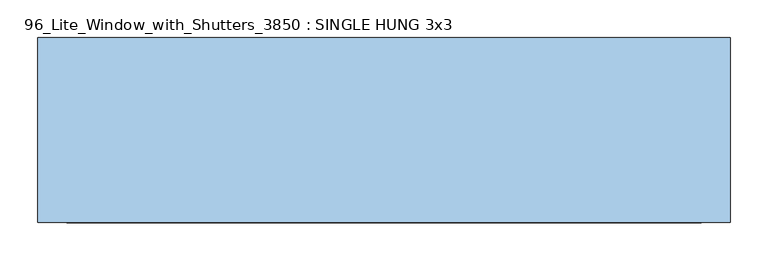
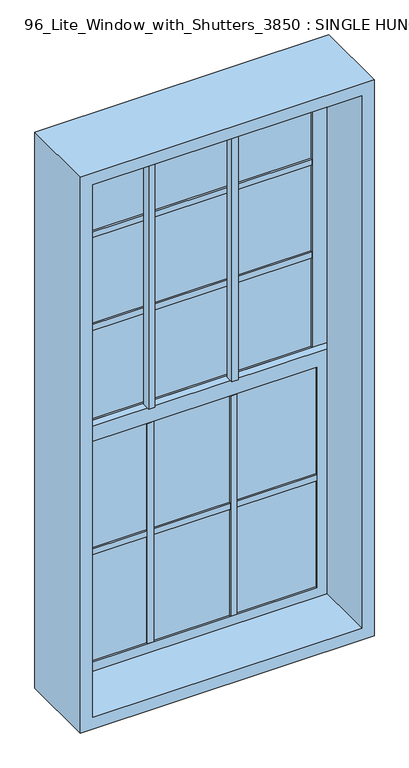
"""IFC4 building model written with IfcOpenShell, lengths in millimetres: window geometry, 96_Lite_Window_with_Shutters_3850 : SINGLE HUNG 3x3."""

from ifc_helpers import new_model, si_unit, frame, origin, place, context, project, spatial, polyline, outline, extrude, faceted_brep, source, transform, mapped, element, save


def window_96_lite_window_with_shutters_3850_single_hung_3x3_51791338(model_context):
    return source(origin(), model_context, "Body", "SolidModel", [
        extrude(outline(polyline([(-387.35, 109.5375), (387.35, 109.5375), (387.35, 96.8375), (-387.35, 96.8375), (-387.35, 109.5375)])), frame((0.0, 0.0, 1149.35), z_axis=(0.0, 0.0, 1.0), x_axis=(1.0, 0.0, 0.0)), (0.0, 0.0, 1.0), 914.4),
        extrude(outline(polyline([(-120.517764, 84.1375), (-120.517764, 58.7375), (-139.832236, 58.7375), (-139.832236, 84.1375), (-120.517764, 84.1375)])), frame((0.0, 0.0, 1149.35), z_axis=(0.0, 0.0, 1.0), x_axis=(1.0, 0.0, 0.0)), (0.0, 0.0, 1.0), 914.4),
        extrude(outline(polyline([(138.244736, 84.1375), (138.244736, 58.7375), (118.930264, 58.7375), (118.930264, 84.1375), (138.244736, 84.1375)])), frame((0.0, 0.0, 1149.35), z_axis=(0.0, 0.0, 1.0), x_axis=(1.0, 0.0, 0.0)), (0.0, 0.0, 1.0), 914.4),
        extrude(outline(polyline([(1098.55, -438.15), (1098.55, 438.15), (2114.55, 438.15), (2114.55, -438.15), (1098.55, -438.15)]), holes=[polyline([(1149.35, 387.35), (1149.35, -387.35), (2063.75, -387.35), (2063.75, 387.35), (1149.35, 387.35)])]), frame((0.0, 90.4875, 0.0), z_axis=(0.0, 1.0, 0.0), x_axis=(0.0, 0.0, 1.0)), (0.0, 0.0, 1.0), 25.4),
        faceted_brep([(-419.1, 65.0875, 2095.5), (-419.1, -122.2375, 2095.5), (-419.1, -122.2375, 342.9), (-419.1, 65.0875, 342.9), (-457.2, -122.2375, 304.8), (457.2, -122.2375, 304.8), (457.2, -122.2375, 2133.6), (-457.2, -122.2375, 2133.6), (419.1, -122.2375, 2095.5), (419.1, -122.2375, 342.9), (419.1, 65.0875, 342.9), (-438.15, 65.0875, 2114.55), (438.15, 65.0875, 2114.55), (438.15, 65.0875, 323.85), (-438.15, 65.0875, 323.85), (419.1, 65.0875, 2095.5), (-438.15, 122.2375, 2114.55), (-438.15, 122.2375, 323.85), (438.15, 122.2375, 323.85), (-457.2, 122.2375, 2133.6), (457.2, 122.2375, 2133.6), (457.2, 122.2375, 304.8), (-457.2, 122.2375, 304.8), (438.15, 122.2375, 2114.55)], [[[0, 1, 2, 3]], [[4, 5, 6, 7], [1, 8, 9, 2]], [[3, 2, 9, 10]], [[11, 12, 13, 14], [3, 10, 15, 0]], [[16, 11, 14, 17]], [[17, 14, 13, 18]], [[19, 20, 21, 22], [17, 18, 23, 16]], [[7, 19, 22, 4]], [[4, 22, 21, 5]], [[10, 9, 8, 15]], [[18, 13, 12, 23]], [[5, 21, 20, 6]], [[15, 8, 1, 0]], [[23, 12, 11, 16]], [[6, 20, 19, 7]]]),
        extrude(outline(polyline([(387.35, 71.4375), (-387.35, 71.4375), (-387.35, 84.1375), (387.35, 84.1375), (387.35, 71.4375)])), frame((0.0, 0.0, 373.6326193), z_axis=(0.0, 0.0, 1.0), x_axis=(1.0, 0.0, 0.0)), (0.0, 0.0, 1.0), 724.9173807),
        extrude(outline(polyline([(138.244736, 90.4875), (138.244736, 65.0875), (118.930264, 65.0875), (118.930264, 90.4875), (138.244736, 90.4875)])), frame((0.0, 0.0, 373.6326193), z_axis=(0.0, 0.0, 1.0), x_axis=(1.0, 0.0, 0.0)), (0.0, 0.0, 1.0), 724.9173807),
        extrude(outline(polyline([(-120.517764, 90.4875), (-120.517764, 65.0875), (-139.832236, 65.0875), (-139.832236, 90.4875), (-120.517764, 90.4875)])), frame((0.0, 0.0, 373.6326193), z_axis=(0.0, 0.0, 1.0), x_axis=(1.0, 0.0, 0.0)), (0.0, 0.0, 1.0), 724.9173807),
        extrude(outline(polyline([(387.35, 90.4875), (387.35, 65.0875), (-387.35, 65.0875), (-387.35, 90.4875), (387.35, 90.4875)])), frame((0.0, 0.0, 726.5663097), z_axis=(0.0, 0.0, 1.0), x_axis=(1.0, 0.0, 0.0)), (0.0, 0.0, 1.0), 19.05),
        extrude(outline(polyline([(387.35, 115.8875), (387.35, 90.4875), (-387.35, 90.4875), (-387.35, 115.8875), (387.35, 115.8875)])), frame((0.0, 0.0, 1444.625), z_axis=(0.0, 0.0, 1.0), x_axis=(1.0, 0.0, 0.0)), (0.0, 0.0, 1.0), 19.05),
        extrude(outline(polyline([(387.35, 115.8875), (387.35, 90.4875), (-387.35, 90.4875), (-387.35, 115.8875), (387.35, 115.8875)])), frame((0.0, 0.0, 1749.425), z_axis=(0.0, 0.0, 1.0), x_axis=(1.0, 0.0, 0.0)), (0.0, 0.0, 1.0), 19.05),
        extrude(outline(polyline([(323.85, -438.15), (323.85, 438.15), (1149.35, 438.15), (1149.35, -438.15), (323.85, -438.15)]), holes=[polyline([(373.6326193, 387.35), (373.6326193, -387.35), (1098.55, -387.35), (1098.55, 387.35), (373.6326193, 387.35)])]), frame((0.0, 65.0875, 0.0), z_axis=(0.0, 1.0, 0.0), x_axis=(0.0, 0.0, 1.0)), (0.0, 0.0, 1.0), 25.4),
    ])


if __name__ == "__main__":
    model = new_model("IFC4")
    model_context = context("Model", 3, world=origin())
    ifc_project = project(units=[si_unit("LENGTHUNIT", "METRE", prefix="MILLI")], contexts=[model_context])
    site = spatial("IfcSite", under=ifc_project)
    building = spatial("IfcBuilding", under=site)
    placement = place(None, origin())
    window_96_lite_window_with_shutters_3850_single_hung_3x3_shape = window_96_lite_window_with_shutters_3850_single_hung_3x3_51791338(model_context)
    element("IfcWindow", 1, ObjectType="96_Lite_Window_with_Shutters_3850 : SINGLE HUNG 3x3", at=placement, inside=building, context=model_context, shape_type="MappedRepresentation", body=[
        mapped(window_96_lite_window_with_shutters_3850_single_hung_3x3_shape, transform((0.0, 0.0, 0.0), x_axis=(1.0, 0.0, 0.0), y_axis=(0.0, 1.0, 0.0), z_axis=(0.0, 0.0, 1.0))),
    ])
    save(model, "model.ifc")
